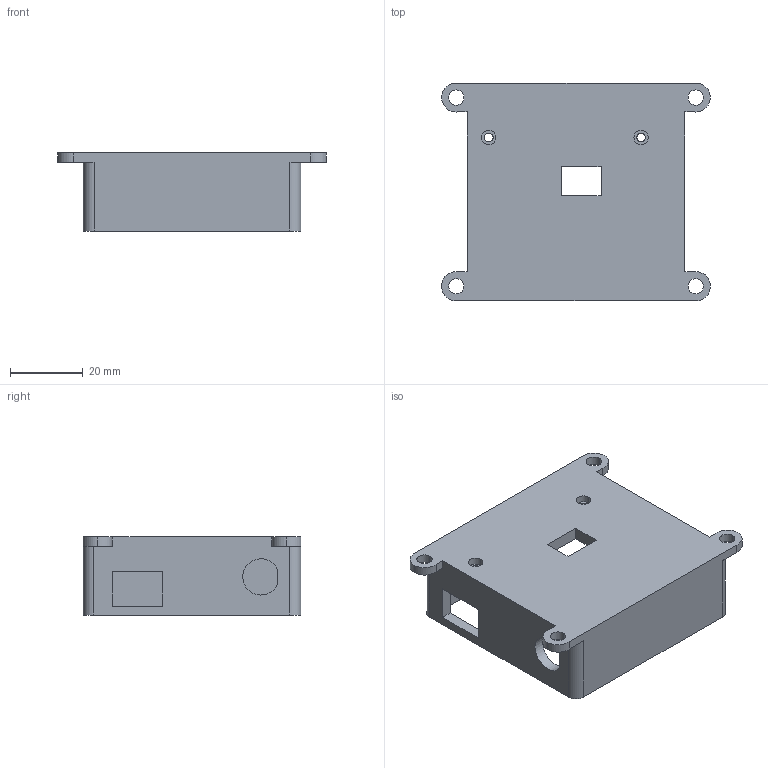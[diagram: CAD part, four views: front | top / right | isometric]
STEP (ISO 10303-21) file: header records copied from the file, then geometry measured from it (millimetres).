
FILE_DESCRIPTION (( 'STEP AP214' ), '1' );
FILE_NAME ('Control_box0.STEP', '2026-09-16T06:21:41', ( '' ), ( '' ), 'SwSTEP 2.0', 'SolidWorks 2024', '' );
FILE_SCHEMA (( 'AUTOMOTIVE_DESIGN' ));
Length unit declared in the file: millimetre
Products named in the file (2): Control_box0; 独立控制盒_默认
Assembly tree (1 placements, depth 2):
  Control_box0
    独立控制盒_默认
Bounding box: 74.07 x 60.02 x 21.5 mm (x, y, z)
Volume: 24429 mm3; surface area: 16715 mm2
Topology: 1 solids, 1 shells, 92 faces, 240 edges, 160 vertices
Faces by surface type: plane 49, cylinder 43
Entity records: 2941 total; most frequent: DIRECTION 518, CARTESIAN_POINT 496, ORIENTED_EDGE 480, EDGE_CURVE 240, AXIS2_PLACEMENT_3D 182, VERTEX_POINT 160, LINE 154, VECTOR 154
